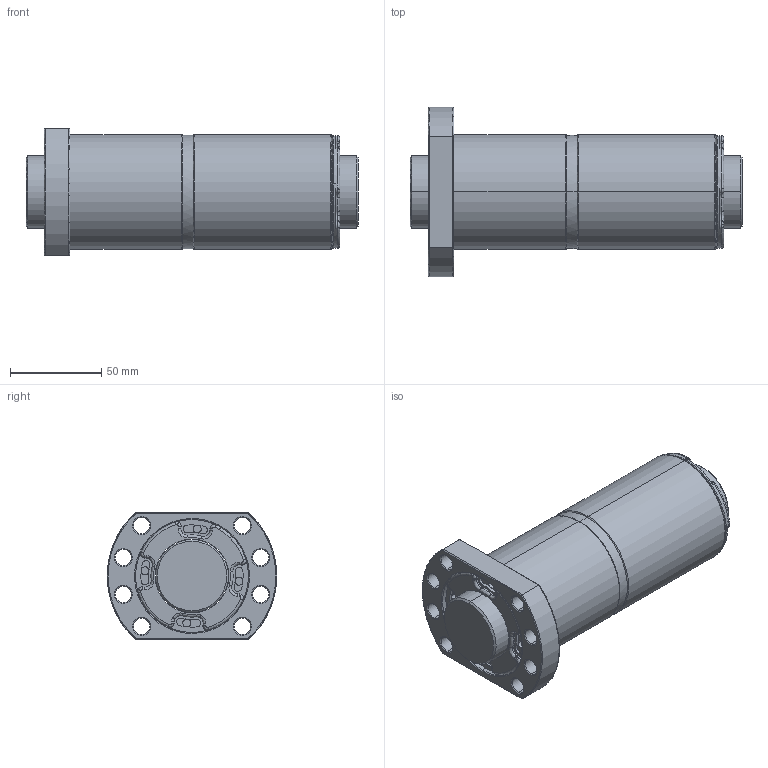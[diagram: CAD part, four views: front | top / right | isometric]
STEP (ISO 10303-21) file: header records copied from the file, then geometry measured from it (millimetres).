
FILE_DESCRIPTION (( 'STEP AP203' ), '1' );
FILE_NAME ('DFSR04020B1D-C.STEP', '2020-06-17T02:40:49', ( '' ), ( '' ), 'SwSTEP 2.0', 'SolidWorks 2013', '' );
FILE_SCHEMA (( 'CONFIG_CONTROL_DESIGN' ));
Length unit declared in the file: millimetre
Products named in the file (1): DFSR04020B1D-C
Bounding box: 182 x 93 x 70 mm (x, y, z)
Volume: 534350.6 mm3; surface area: 94589.9 mm2
Topology: 2 solids, 2 shells, 382 faces, 940 edges, 574 vertices
Faces by surface type: cylinder 176, plane 85, bspline 80, cone 41
Entity records: 15570 total; most frequent: CARTESIAN_POINT 6557, DIRECTION 1976, ORIENTED_EDGE 1874, EDGE_CURVE 937, AXIS2_PLACEMENT_3D 846, VERTEX_POINT 574, CIRCLE 543, EDGE_LOOP 419
